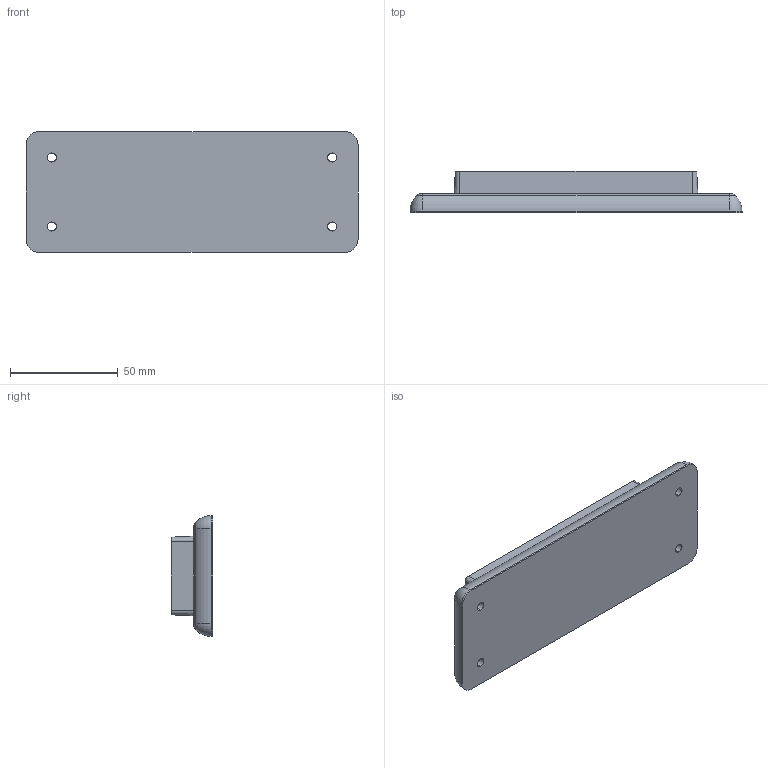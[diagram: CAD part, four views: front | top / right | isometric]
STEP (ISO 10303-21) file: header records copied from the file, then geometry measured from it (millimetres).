
FILE_DESCRIPTION (( 'STEP AP203' ), '1' );
FILE_NAME ('106748.STEP', '2016-02-15T08:52:18', ( '' ), ( '' ), 'SwSTEP 2.0', 'SolidWorks 2016', '' );
FILE_SCHEMA (( 'CONFIG_CONTROL_DESIGN' ));
Length unit declared in the file: millimetre
Products named in the file (1): 106748
Bounding box: 154 x 19.25 x 56 mm (x, y, z)
Volume: 113838.7 mm3; surface area: 22884.1 mm2
Topology: 1 solids, 1 shells, 43 faces, 104 edges, 64 vertices
Faces by surface type: cylinder 20, plane 11, torus 8, cone 4
Entity records: 1359 total; most frequent: DIRECTION 248, CARTESIAN_POINT 212, ORIENTED_EDGE 208, EDGE_CURVE 104, AXIS2_PLACEMENT_3D 100, VERTEX_POINT 64, CIRCLE 56, EDGE_LOOP 52
